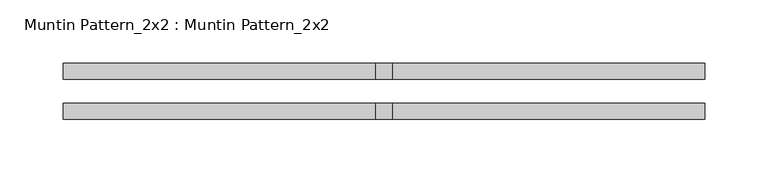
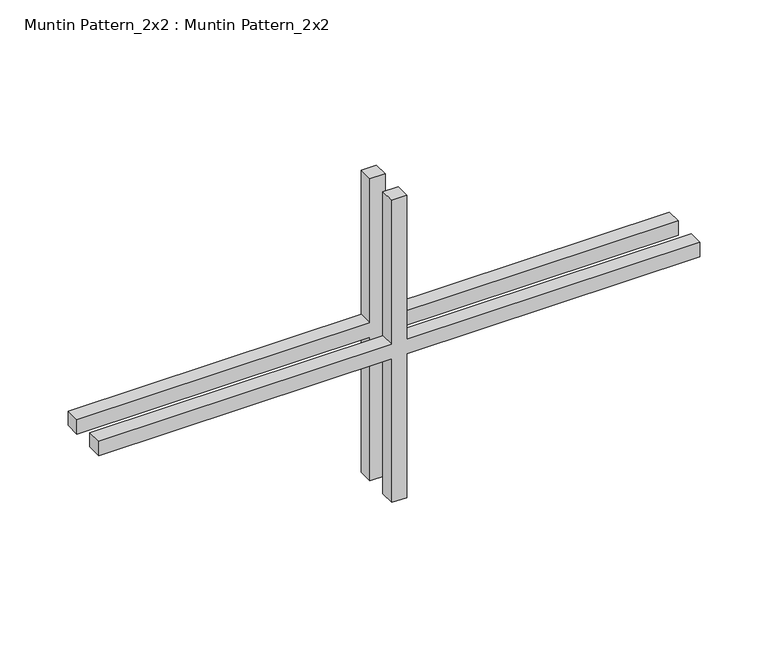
"""IFC4 building model written with IfcOpenShell, lengths in millimetres: proxy geometry, Muntin Pattern_2x2 : Muntin Pattern_2x2."""

from ifc_helpers import new_model, si_unit, frame, origin, place, context, project, spatial, polyline, outline, extrude, source, transform, mapped, element, save


def muntin_pattern_2x2_muntin_pattern_2x2_ce8df0db(model_context):
    return source(origin(), model_context, "Body", "SweptSolid", [
        extrude(outline(polyline([(141.2875, -6.35), (141.2875, -254.0), (128.5875, -254.0), (128.5875, -6.35), (0.0, -6.35), (0.0, 6.35), (128.5875, 6.35), (128.5875, 254.0), (141.2875, 254.0), (141.2875, 6.35), (269.875, 6.35), (269.875, -6.35), (141.2875, -6.35)])), frame((0.0, 9.525, 0.0), z_axis=(0.0, 1.0, 0.0), x_axis=(0.0, 0.0, 1.0)), (0.0, 0.0, 1.0), 12.7),
        extrude(outline(polyline([(141.2875, -6.35), (141.2875, -254.0), (128.5875, -254.0), (128.5875, -6.35), (0.0, -6.35), (0.0, 6.35), (128.5875, 6.35), (128.5875, 254.0), (141.2875, 254.0), (141.2875, 6.35), (269.875, 6.35), (269.875, -6.35), (141.2875, -6.35)])), frame((0.0, -22.225, 0.0), z_axis=(0.0, 1.0, 0.0), x_axis=(0.0, 0.0, 1.0)), (0.0, 0.0, 1.0), 12.7),
    ])


if __name__ == "__main__":
    model = new_model("IFC4")
    model_context = context("Model", 3, world=origin())
    ifc_project = project(units=[si_unit("LENGTHUNIT", "METRE", prefix="MILLI")], contexts=[model_context])
    site = spatial("IfcSite", under=ifc_project)
    building = spatial("IfcBuilding", under=site)
    placement = place(None, origin())
    muntin_pattern_2x2_muntin_pattern_2x2_shape = muntin_pattern_2x2_muntin_pattern_2x2_ce8df0db(model_context)
    element("IfcBuildingElementProxy", 1, Name="Muntin Pattern_2x2 : Muntin Pattern_2x2", ObjectType="Muntin Pattern_2x2 : Muntin Pattern_2x2", at=placement, inside=building, context=model_context, shape_type="MappedRepresentation", body=[
        mapped(muntin_pattern_2x2_muntin_pattern_2x2_shape, transform((0.0, 0.0, 0.0), x_axis=(1.0, 0.0, 0.0), y_axis=(0.0, 1.0, 0.0), z_axis=(0.0, 0.0, 1.0))),
    ])
    save(model, "model.ifc")
